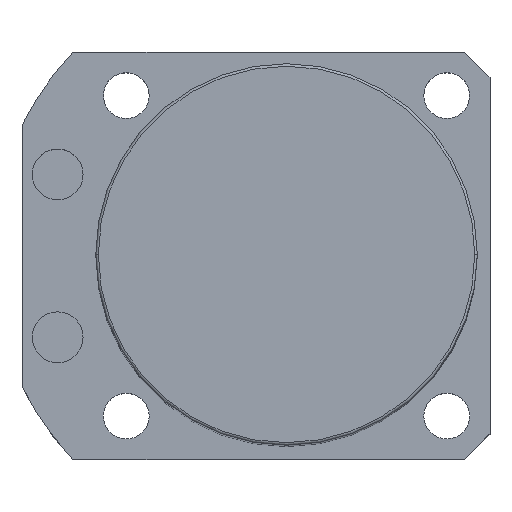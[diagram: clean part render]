
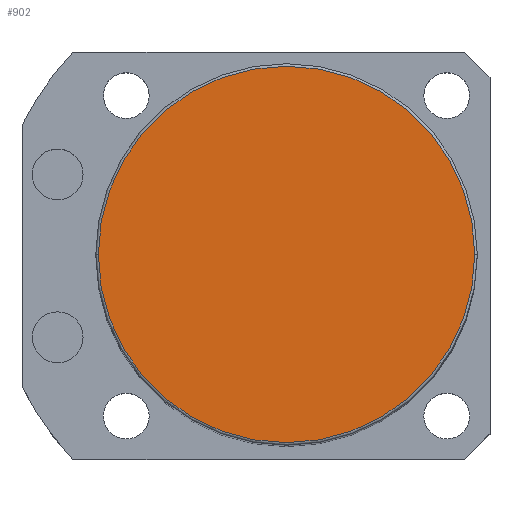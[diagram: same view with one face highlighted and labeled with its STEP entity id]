
A CAD part, top view. The second image highlights one B-rep face of the part: STEP entity #902.
In plain terms, the highlighted planar face has unit normal (0, 0, 1).
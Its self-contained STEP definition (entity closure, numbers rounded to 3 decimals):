
#28 = DIRECTION ( 'NONE',  ( 1., 0., 0. ) ) ;
#54 = PLANE ( 'NONE',  #1064 ) ;
#68 = ORIENTED_EDGE ( 'NONE', *, *, #1228, .T. ) ;
#246 = CARTESIAN_POINT ( 'NONE',  ( 37., 0., 175.5 ) ) ;
#649 = EDGE_LOOP ( 'NONE', ( #1951, #68 ) ) ;
#669 = CARTESIAN_POINT ( 'NONE',  ( 0., 0., 175.5 ) ) ;
#902 = ADVANCED_FACE ( 'NONE', ( #2412 ), #54, .T. ) ;
#941 = CARTESIAN_POINT ( 'NONE',  ( 0., 0., 175.5 ) ) ;
#1050 = CARTESIAN_POINT ( 'NONE',  ( -37., 0., 175.5 ) ) ;
#1064 = AXIS2_PLACEMENT_3D ( 'NONE', #1181, #1707, #28 ) ;
#1093 = VERTEX_POINT ( 'NONE', #1050 ) ;
#1114 = DIRECTION ( 'NONE',  ( 0., 0., 1. ) ) ;
#1181 = CARTESIAN_POINT ( 'NONE',  ( 0., 0., 175.5 ) ) ;
#1228 = EDGE_CURVE ( 'NONE', #1093, #2201, #1827, .T. ) ;
#1234 = AXIS2_PLACEMENT_3D ( 'NONE', #669, #1966, #1972 ) ;
#1571 = AXIS2_PLACEMENT_3D ( 'NONE', #941, #1114, #1872 ) ;
#1707 = DIRECTION ( 'NONE',  ( 0., 0., 1. ) ) ;
#1827 = CIRCLE ( 'NONE', #1234, 37. ) ;
#1849 = CIRCLE ( 'NONE', #1571, 37. ) ;
#1872 = DIRECTION ( 'NONE',  ( 1., 0., 0. ) ) ;
#1951 = ORIENTED_EDGE ( 'NONE', *, *, #2042, .T. ) ;
#1966 = DIRECTION ( 'NONE',  ( 0., 0., 1. ) ) ;
#1972 = DIRECTION ( 'NONE',  ( 1., 0., 0. ) ) ;
#2042 = EDGE_CURVE ( 'NONE', #2201, #1093, #1849, .T. ) ;
#2201 = VERTEX_POINT ( 'NONE', #246 ) ;
#2412 = FACE_OUTER_BOUND ( 'NONE', #649, .T. ) ;
